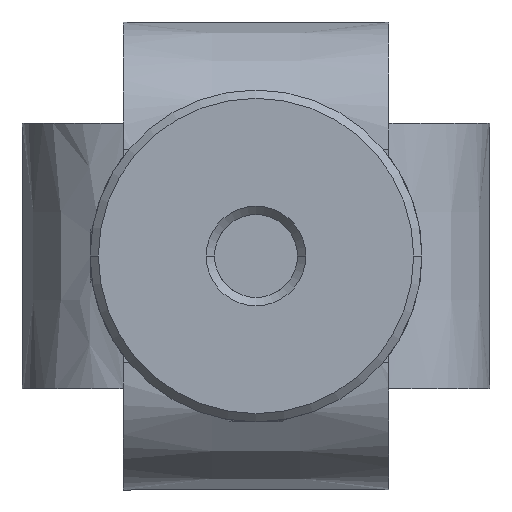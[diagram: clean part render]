
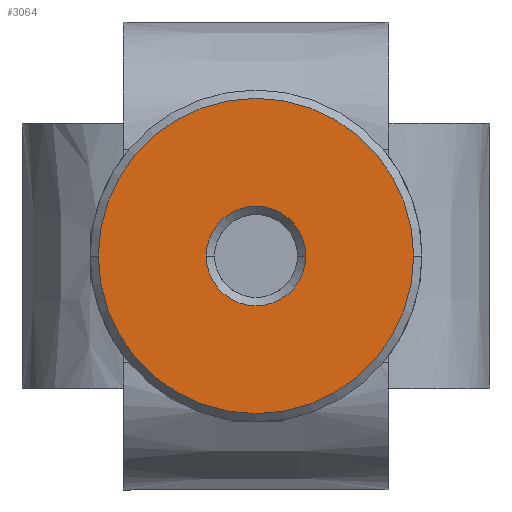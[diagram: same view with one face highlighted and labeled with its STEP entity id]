
A CAD part, front view. The second image highlights one B-rep face of the part: STEP entity #3064.
In plain terms, the highlighted planar face has unit normal (0, -1, 0).
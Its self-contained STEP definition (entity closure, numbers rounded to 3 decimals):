
#119 = PLANE ( 'NONE',  #2239 ) ;
#173 = DIRECTION ( 'NONE',  ( -1., 0., 0. ) ) ;
#207 = DIRECTION ( 'NONE',  ( 0., 1., 0. ) ) ;
#305 = ORIENTED_EDGE ( 'NONE', *, *, #7265, .T. ) ;
#530 = CIRCLE ( 'NONE', #2610, 3. ) ;
#562 = VERTEX_POINT ( 'NONE', #4182 ) ;
#690 = EDGE_CURVE ( 'NONE', #5208, #4069, #6781, .T. ) ;
#781 = DIRECTION ( 'NONE',  ( 0., -1., 0. ) ) ;
#810 = CARTESIAN_POINT ( 'NONE',  ( 0., -35.24, 0. ) ) ;
#1248 = EDGE_CURVE ( 'NONE', #4069, #5208, #530, .T. ) ;
#1399 = CARTESIAN_POINT ( 'NONE',  ( 0., -35.24, 0. ) ) ;
#1447 = FACE_BOUND ( 'NONE', #5013, .T. ) ;
#1872 = VERTEX_POINT ( 'NONE', #3031 ) ;
#2009 = ORIENTED_EDGE ( 'NONE', *, *, #1248, .T. ) ;
#2239 = AXIS2_PLACEMENT_3D ( 'NONE', #2624, #4364, #5527 ) ;
#2537 = DIRECTION ( 'NONE',  ( -1., 0., 0. ) ) ;
#2610 = AXIS2_PLACEMENT_3D ( 'NONE', #1399, #207, #6820 ) ;
#2624 = CARTESIAN_POINT ( 'NONE',  ( 0., -35.24, 0. ) ) ;
#2742 = CIRCLE ( 'NONE', #7739, 9.5 ) ;
#3031 = CARTESIAN_POINT ( 'NONE',  ( -9.5, -35.24, 0. ) ) ;
#3064 = ADVANCED_FACE ( 'NONE', ( #1447, #7612 ), #119, .T. ) ;
#3079 = CARTESIAN_POINT ( 'NONE',  ( 0., -35.24, 0. ) ) ;
#3673 = DIRECTION ( 'NONE',  ( 0., -1., 0. ) ) ;
#3696 = DIRECTION ( 'NONE',  ( 0., 1., 0. ) ) ;
#4069 = VERTEX_POINT ( 'NONE', #5340 ) ;
#4182 = CARTESIAN_POINT ( 'NONE',  ( 9.5, -35.24, 0. ) ) ;
#4244 = AXIS2_PLACEMENT_3D ( 'NONE', #810, #781, #173 ) ;
#4364 = DIRECTION ( 'NONE',  ( 0., -1., 0. ) ) ;
#4382 = EDGE_CURVE ( 'NONE', #1872, #562, #6114, .T. ) ;
#4862 = ORIENTED_EDGE ( 'NONE', *, *, #4382, .T. ) ;
#5013 = EDGE_LOOP ( 'NONE', ( #2009, #5705 ) ) ;
#5208 = VERTEX_POINT ( 'NONE', #6916 ) ;
#5340 = CARTESIAN_POINT ( 'NONE',  ( -3., -35.24, 0. ) ) ;
#5379 = AXIS2_PLACEMENT_3D ( 'NONE', #3079, #3696, #2537 ) ;
#5518 = DIRECTION ( 'NONE',  ( -1., 0., 0. ) ) ;
#5527 = DIRECTION ( 'NONE',  ( -1., 0., 0. ) ) ;
#5705 = ORIENTED_EDGE ( 'NONE', *, *, #690, .T. ) ;
#6114 = CIRCLE ( 'NONE', #4244, 9.5 ) ;
#6723 = CARTESIAN_POINT ( 'NONE',  ( 0., -35.24, 0. ) ) ;
#6781 = CIRCLE ( 'NONE', #5379, 3. ) ;
#6820 = DIRECTION ( 'NONE',  ( -1., 0., 0. ) ) ;
#6916 = CARTESIAN_POINT ( 'NONE',  ( 3., -35.24, 0. ) ) ;
#7265 = EDGE_CURVE ( 'NONE', #562, #1872, #2742, .T. ) ;
#7612 = FACE_OUTER_BOUND ( 'NONE', #7701, .T. ) ;
#7701 = EDGE_LOOP ( 'NONE', ( #305, #4862 ) ) ;
#7739 = AXIS2_PLACEMENT_3D ( 'NONE', #6723, #3673, #5518 ) ;
